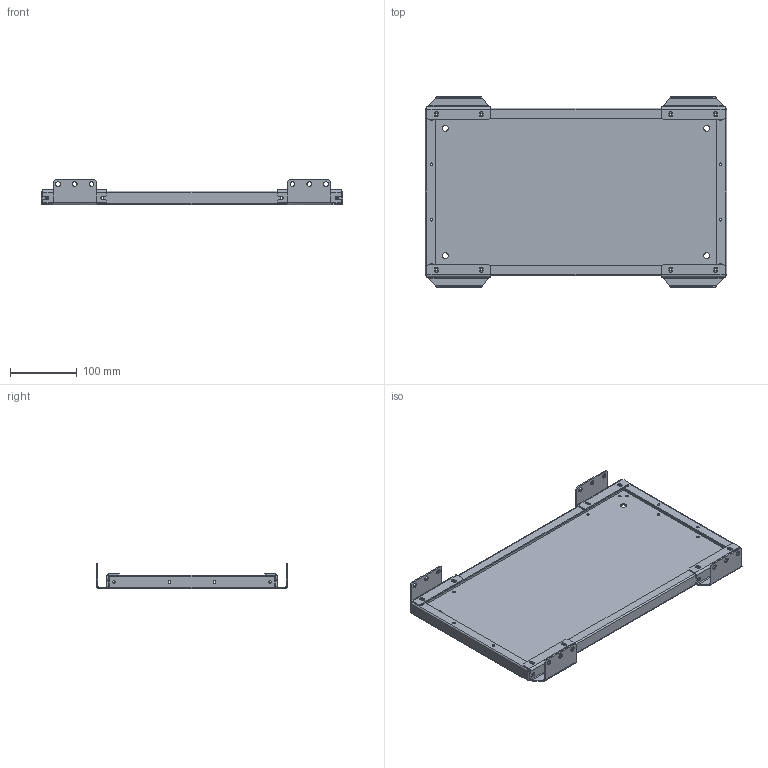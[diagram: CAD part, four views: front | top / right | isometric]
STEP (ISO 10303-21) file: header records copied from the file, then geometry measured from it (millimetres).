
FILE_DESCRIPTION (( 'STEP AP203' ), '1' );
FILE_NAME ('MP 45.25 M Ïàíåëü ìîíòàæíàÿ ñåêöèîííàÿ (ãîðèçîíòàëüíîå êðåïëåíèå).STEP', '2021-04-06T07:14:40', ( '' ), ( '' ), 'SwSTEP 2.0', 'SolidWorks 2018', '' );
FILE_SCHEMA (( 'CONFIG_CONTROL_DESIGN' ));
Length unit declared in the file: millimetre
Products named in the file (1): MP 45.25 M Ïàíåëü ìîíòàæíàÿ ñåêöèîííàÿ (ãîðèçîíòàëüíîå êðåïëåíèå)
Bounding box: 450 x 285 x 37.75 mm (x, y, z)
Volume: 358675.3 mm3; surface area: 366377.6 mm2
Topology: 5 solids, 5 shells, 388 faces, 1016 edges, 632 vertices
Faces by surface type: cylinder 196, plane 168, bspline 16, sphere 8
Entity records: 12713 total; most frequent: CARTESIAN_POINT 2749, DIRECTION 2050, ORIENTED_EDGE 2016, EDGE_CURVE 1008, AXIS2_PLACEMENT_3D 733, VERTEX_POINT 632, VECTOR 584, LINE 584
